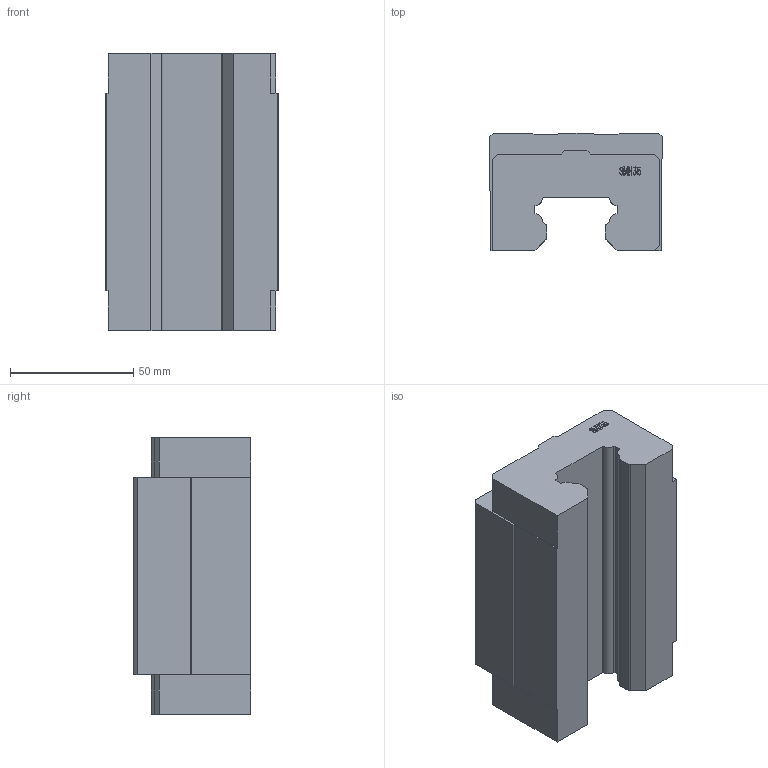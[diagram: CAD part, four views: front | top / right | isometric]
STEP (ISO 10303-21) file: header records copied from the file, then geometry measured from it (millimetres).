
FILE_DESCRIPTION (( 'STEP AP203' ), '1' );
FILE_NAME ('SMH35B.stp', '2019-09-25T02:59:44', ( 'pgos' ), ( '' ), 'SwSTEP 2.0', 'SolidWorks 2014', '' );
FILE_SCHEMA (( 'CONFIG_CONTROL_DESIGN' ));
Length unit declared in the file: millimetre
Products named in the file (1): SMH35B
Bounding box: 70 x 47.5 x 112.4 mm (x, y, z)
Volume: 278844.8 mm3; surface area: 37675.1 mm2
Topology: 1 solids, 1 shells, 223 faces, 636 edges, 424 vertices
Faces by surface type: plane 149, bspline 58, cylinder 16
Entity records: 9647 total; most frequent: CARTESIAN_POINT 4118, ORIENTED_EDGE 1272, DIRECTION 884, EDGE_CURVE 636, LINE 488, VECTOR 488, VERTEX_POINT 424, EDGE_LOOP 232
